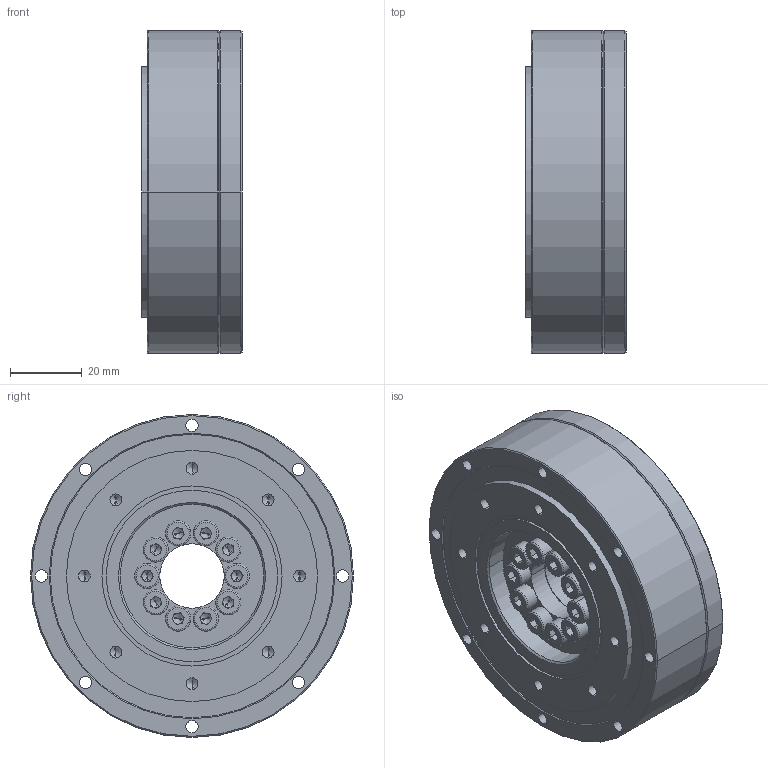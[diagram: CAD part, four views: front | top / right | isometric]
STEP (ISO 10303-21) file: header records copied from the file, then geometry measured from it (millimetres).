
FILE_DESCRIPTION (( 'STEP AP203' ), '1' );
FILE_NAME ('LCD-20-XXX-C-I.STEP', '2016-07-28T07:22:13', ( 'lenovo' ), ( 'Microsoft' ), 'SwSTEP 2.0', 'SolidWorks 2013', '' );
FILE_SCHEMA (( 'CONFIG_CONTROL_DESIGN' ));
Length unit declared in the file: millimetre
Products named in the file (14): ISO 7046-1 - M2.5 x 4 - Z --- 4C_ISO 7046-1 - M2.5 x 4 - Z --- 4C; DB-20-I; DIN 912 M2 x 8 --- 8C_DIN 912 M2 x 8 --- 8C; RZC-20内外圈+钢球; DIN 912 M4 x 12 --- 12C_DIN 912 M4 x 12 --- 12C; RZC-20悵厥殤; YF-20-I; 柔性轴承RZC-20; LCD-20-XXX-C-I; LCD-20-XXX-P01; LCD-20-XXX-P02; LCD-20-XXX-P04; LCD-20-XXX-P05; LCD-20-XXX-P03
Assembly tree (28 placements, depth 3):
  LCD-20-XXX-C-I
    LCD-20-XXX-P03
    DB-20-I
    柔性轴承RZC-20
      RZC-20内外圈+钢球
      RZC-20悵厥殤
    LCD-20-XXX-P01
    LCD-20-XXX-P02
    LCD-20-XXX-P04
    LCD-20-XXX-P05
    ISO 7046-1 - M2.5 x 4 - Z --- 4C_ISO 7046-1 - M2.5 x 4 - Z --- 4C  x4
    DIN 912 M2 x 8 --- 8C_DIN 912 M2 x 8 --- 8C  x4
    DIN 912 M4 x 12 --- 12C_DIN 912 M4 x 12 --- 12C  x10
    YF-20-I
Bounding box: 28 x 90 x 90 mm (x, y, z)
Volume: 123648.3 mm3; surface area: 78836.4 mm2
Topology: 28 solids, 28 shells, 1161 faces, 3119 edges, 1926 vertices
Faces by surface type: plane 396, cylinder 394, cone 217, torus 104, sphere 50
Entity records: 26602 total; most frequent: CARTESIAN_POINT 5564, DIRECTION 4323, ORIENTED_EDGE 3922, EDGE_CURVE 1961, AXIS2_PLACEMENT_3D 1879, VERTEX_POINT 1268, CIRCLE 1133, EDGE_LOOP 911
